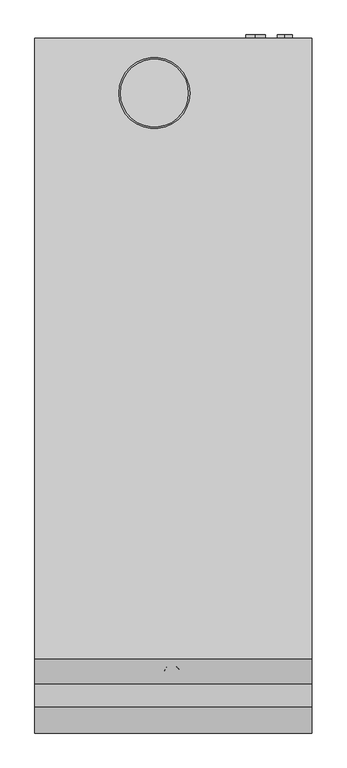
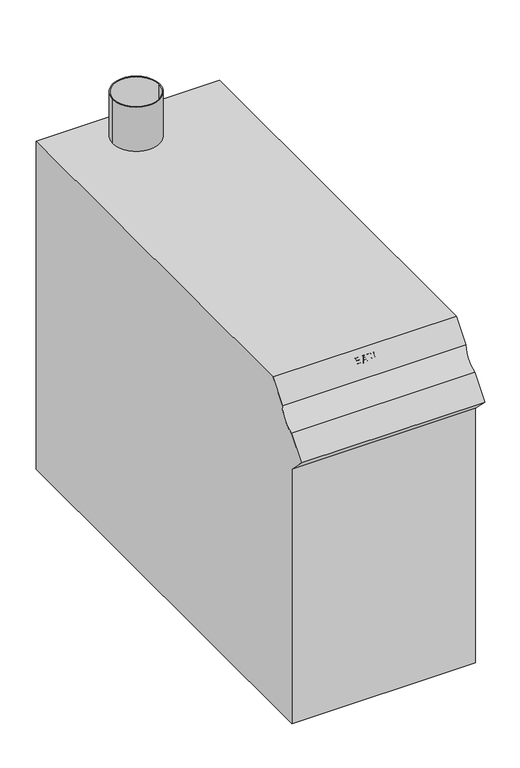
"""IFC4 building model written with IfcOpenShell, lengths in millimetres: proxy geometry, BAXI_ГазовыйКотел_Power_HT_45-150 : BAXI_Газовый котел_Power_HT_1.1500."""

from ifc_helpers import new_model, si_unit, point, frame, frame_2d, origin, place, context, project, spatial, polyline, circle_curve, trimmed, segment, composite_curve, outline, extrude, source, transform, mapped, element, save


def mechanical_equipment_ec901020(model_context):
    return source(origin(), model_context, "Body", "SweptSolid", [
        extrude(outline(composite_curve([segment(polyline([(-5.0, 850.0), (-5.0, 0.0), (-1092.0, 0.0), (-1092.0, 660.0), (-1132.0, 700.0), (-1090.2660851, 752.0109492)]), True, "CONTINUOUS"), segment(trimmed(circle_curve(frame_2d((-1102.6738547, 801.4105648)), 50.9340237), [point((-1090.2660851, 752.0109492))], [point((-1051.7593668, 800.0))], True, "CARTESIAN"), True, "CONTINUOUS"), segment(polyline([(-1051.7593668, 800.0), (-1011.6390502, 850.0), (-5.0, 850.0)]), True, "CONTINUOUS")], self_intersect=False)), frame((-225.0, 0.0, 0.0), z_axis=(1.0, 0.0, 0.0), x_axis=(0.0, 1.0, 0.0)), (0.0, 0.0, 1.0), 450.0),
        extrude(outline(composite_curve([segment(trimmed(circle_curve(frame_2d((346.0, 133.5)), 16.0), [point((330.0, 133.5))], [point((362.0, 133.5))], False, "CARTESIAN"), True, "CONTINUOUS"), segment(trimmed(circle_curve(frame_2d((346.0, 133.5)), 16.0), [point((362.0, 133.5))], [point((330.0, 133.5))], False, "CARTESIAN"), True, "CONTINUOUS")], self_intersect=False)), frame((0.0, -94.5, 0.0), z_axis=(0.0, 1.0, 0.0), x_axis=(0.0, 0.0, 1.0)), (0.0, 0.0, 1.0), 94.5),
        extrude(outline(composite_curve([segment(trimmed(circle_curve(frame_2d((186.0, 133.5)), 16.0), [point((170.0, 133.5))], [point((202.0, 133.5))], False, "CARTESIAN"), True, "CONTINUOUS"), segment(trimmed(circle_curve(frame_2d((186.0, 133.5)), 16.0), [point((202.0, 133.5))], [point((170.0, 133.5))], False, "CARTESIAN"), True, "CONTINUOUS")], self_intersect=False)), frame((0.0, -94.5, 0.0), z_axis=(0.0, 1.0, 0.0), x_axis=(0.0, 0.0, 1.0)), (0.0, 0.0, 1.0), 94.5),
        extrude(outline(composite_curve([segment(trimmed(circle_curve(frame_2d((476.0, 181.0)), 12.5), [point((463.5, 181.0))], [point((488.5, 181.0))], False, "CARTESIAN"), True, "CONTINUOUS"), segment(trimmed(circle_curve(frame_2d((476.0, 181.0)), 12.5), [point((488.5, 181.0))], [point((463.5, 181.0))], False, "CARTESIAN"), True, "CONTINUOUS")], self_intersect=False)), frame((0.0, -94.5, 0.0), z_axis=(0.0, 1.0, 0.0), x_axis=(0.0, 0.0, 1.0)), (0.0, 0.0, 1.0), 94.5),
        extrude(outline(composite_curve([segment(trimmed(circle_curve(frame_2d((65.3668634, 133.5)), 10.0), [point((55.3668634, 133.5))], [point((75.3668634, 133.5))], False, "CARTESIAN"), True, "CONTINUOUS"), segment(trimmed(circle_curve(frame_2d((65.3668634, 133.5)), 10.0), [point((75.3668634, 133.5))], [point((55.3668634, 133.5))], False, "CARTESIAN"), True, "CONTINUOUS")], self_intersect=False)), frame((0.0, -94.5, 0.0), z_axis=(0.0, 1.0, 0.0), x_axis=(0.0, 0.0, 1.0)), (0.0, 0.0, 1.0), 94.5),
        extrude(outline(composite_curve([segment(trimmed(circle_curve(frame_2d((-31.0, -94.5)), 57.5), [point((-88.5, -94.5))], [point((26.5, -94.5))], False, "CARTESIAN"), True, "CONTINUOUS"), segment(trimmed(circle_curve(frame_2d((-31.0, -94.5)), 57.5), [point((26.5, -94.5))], [point((-88.5, -94.5))], False, "CARTESIAN"), True, "CONTINUOUS")], self_intersect=False), holes=[composite_curve([segment(trimmed(circle_curve(frame_2d((-31.0, -94.5)), 55.0), [point((-86.0, -94.5))], [point((24.0, -94.5))], True, "CARTESIAN"), True, "CONTINUOUS"), segment(trimmed(circle_curve(frame_2d((-31.0, -94.5)), 55.0), [point((24.0, -94.5))], [point((-86.0, -94.5))], True, "CARTESIAN"), True, "CONTINUOUS")], self_intersect=False)]), frame((0.0, 0.0, 850.0), z_axis=(0.0, 0.0, 1.0), x_axis=(1.0, 0.0, 0.0)), (0.0, 0.0, 1.0), 115.0),
        extrude(outline(polyline([(0.0, 0.0), (6.281731, 0.0), (9.0620138, -0.1518243), (10.7017164, -0.7875886), (11.9068219, -2.0742997), (12.3888641, -3.8753157), (11.8138295, -5.856623), (10.2519369, -7.211655), (12.1952881, -8.5932563), (12.8747019, -10.889599), (12.3869663, -12.9107602), (11.054708, -14.4783463), (8.972817, -15.2014096), (5.2303477, -15.303891), (0.0, -15.303891), (0.0, 0.0)]), holes=[polyline([(2.9150268, -2.6721079), (2.9150268, -6.0729726), (5.1392531, -6.0729726), (7.6063982, -6.0236297), (4.8659693, -2.6721079), (2.9150268, -2.6721079)]), polyline([(2.9150268, -8.7450806), (2.9150268, -12.631783), (5.9970604, -12.631783), (8.2820164, -12.5406884), (5.6061128, -8.7450806), (2.9150268, -8.7450806)])]), frame((-29.1315163, -1018.4782546, 833.487354), z_axis=(0.0, -0.7799524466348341, 0.6258387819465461), x_axis=(1.0, 0.0, 0.0)), (0.0, 0.0, 1.0), 5.0),
        extrude(outline(polyline([(0.0, 0.0), (3.0630555, 0.0), (4.2624676, -3.4008647), (10.0431784, -3.4008647), (11.2274081, 0.0), (14.3322153, 0.0), (8.7450805, -15.303891), (5.6402733, -15.303891), (0.0, 0.0)]), holes=[polyline([(5.1961872, -6.0729726), (7.1661077, -11.6601074), (9.1094589, -6.0729726), (5.1961872, -6.0729726)])]), frame((-0.9529234, -1028.0560231, 821.5510468), z_axis=(0.0, -0.7799524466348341, 0.6258387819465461), x_axis=(-1.0, 0.0, 0.0)), (0.0, 0.0, 1.0), 5.0),
        extrude(outline(polyline([(0.0, 0.0), (9.5718736, 0.0), (13.0938513, 7.9370131), (14.9522751, 5.079771), (12.6996984, 0.0014133), (18.2552198, 0.0016435), (20.1136436, -2.8555986), (11.4302974, -2.8572421), (7.549588, -11.6071484), (5.6911642, -8.7499063), (8.3056546, -2.8565859), (1.8584238, -2.8572421), (0.0, 0.0)])), frame((-0.8314639, -1028.0560231, 821.5510468), z_axis=(0.0, -0.7799524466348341, 0.6258387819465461), x_axis=(0.5452392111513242, 0.5246284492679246, 0.653818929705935)), (0.0, 0.0, 1.0), 5.0),
        extrude(outline(polyline([(0.0, -2.9150269), (0.0, 0.0), (5.0, 0.0), (5.0, -2.9150269), (0.0, -2.9150269)])), frame((17.5089134, -1028.0560231, 821.5510468), z_axis=(0.0, 0.6258387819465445, 0.7799524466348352), x_axis=(0.0, -0.7799524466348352, 0.6258387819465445)), (0.0, 0.0, 1.0), 15.303891),
    ])


if __name__ == "__main__":
    model = new_model("IFC4")
    model_context = context("Model", 3, world=origin())
    ifc_project = project(units=[si_unit("LENGTHUNIT", "METRE", prefix="MILLI")], contexts=[model_context])
    site = spatial("IfcSite", under=ifc_project)
    building = spatial("IfcBuilding", under=site)
    placement = place(None, origin())
    mechanical_equipment_shape = mechanical_equipment_ec901020(model_context)
    element("IfcBuildingElementProxy", 1, Name="BAXI_ГазовыйКотел_Power_HT_45-150 : BAXI_Газовый котел_Power_HT_1.1500", ObjectType="BAXI_ГазовыйКотел_Power_HT_45-150 : BAXI_Газовый котел_Power_HT_1.1500", at=placement, inside=building, context=model_context, shape_type="MappedRepresentation", body=[
        mapped(mechanical_equipment_shape, transform((0.0, 0.0, 0.0), x_axis=(1.0, 0.0, 0.0), y_axis=(0.0, 1.0, 0.0), z_axis=(0.0, 0.0, 1.0))),
    ])
    save(model, "model.ifc")
